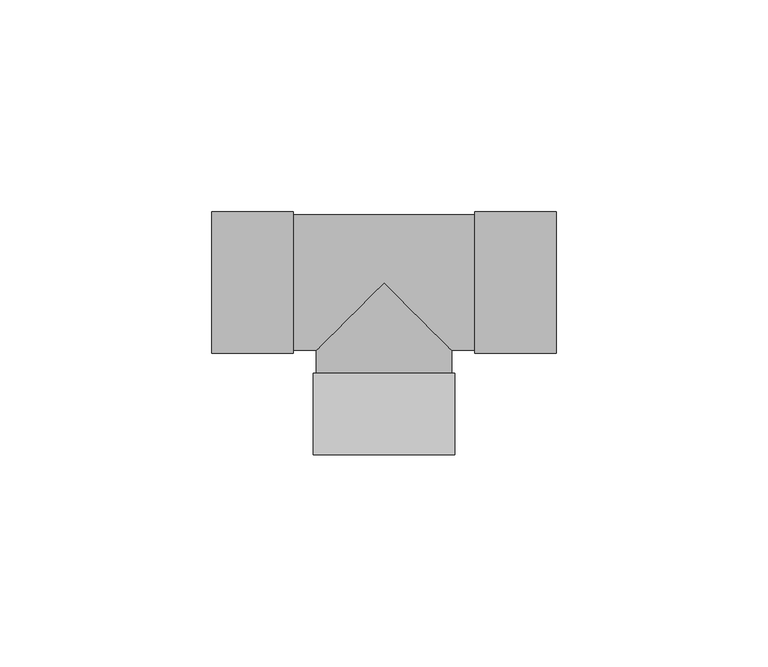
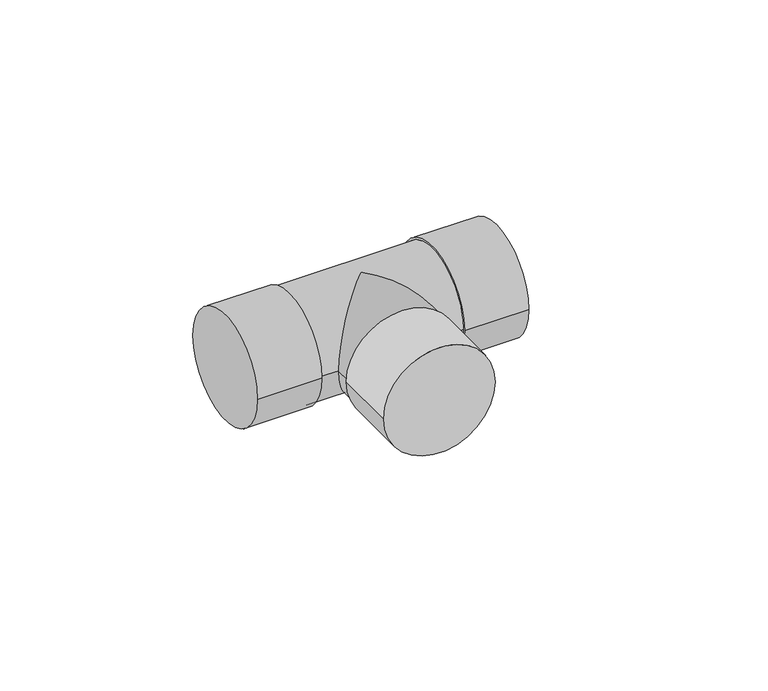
"""IFC4 building model written with IfcOpenShell, lengths in millimetres: pipe fitting geometry, Tê - Soldado - CU : Padrão."""

from ifc_helpers import new_model, si_unit, frame, origin, place, context, project, spatial, circle_curve, ellipse_curve, source, transform, mapped, element, save
from ifc_brep_helpers import plane_surface, cylinder_surface, advanced_brep


def pipe_fitting_a74a8f85(model_context):
    return source(origin(), model_context, "Body", "AdvancedBrep", [
        advanced_brep(
        [(16.69, -40.65, 0.0), (-16.69, -40.65, 0.0), (16.69, -21.4, 0.0), (-16.69, -21.4, 0.0), (16.0, -21.4, 0.0), (-16.0, -21.4, 0.0), (-40.62, -16.69, 0.0), (-40.62, 16.69, 0.0), (-21.37, -16.69, 0.0), (-21.37, 16.69, 0.0), (-21.37, -16.0, 0.0), (-21.37, 16.0, 0.0), (21.37, 16.0, 0.0), (-16.0, -16.0, 0.0), (0.0, 0.0, 16.0), (16.0, -16.0, 0.0), (21.37, -16.0, 0.0), (0.0, 0.0, -16.0), (21.37, -16.69, 0.0), (21.37, 16.69, 0.0), (40.62, -16.69, 0.0), (40.62, 16.69, 0.0)],
        [
            (0, 1, circle_curve(frame((0.0, -40.65, 0.0), z_axis=(0.0, -1.0, 0.0), x_axis=(-1.0, 0.0, 0.0)), 16.69)),
            (1, 0, circle_curve(frame((0.0, -40.65, 0.0), z_axis=(0.0, -1.0, 0.0), x_axis=(-1.0, 0.0, 0.0)), 16.69)),
            (2, 3, circle_curve(frame((0.0, -21.4, 0.0), z_axis=(0.0, 1.0, 0.0), x_axis=(-1.0, 0.0, 0.0)), 16.69)),
            (3, 2, circle_curve(frame((0.0, -21.4, 0.0), z_axis=(0.0, 1.0, 0.0), x_axis=(-1.0, 0.0, 0.0)), 16.69)),
            (4, 5, circle_curve(frame((0.0, -21.4, 0.0), z_axis=(0.0, -1.0, 0.0), x_axis=(1.0, 0.0, 0.0)), 16.0)),
            (5, 4, circle_curve(frame((0.0, -21.4, 0.0), z_axis=(0.0, -1.0, 0.0), x_axis=(1.0, 0.0, 0.0)), 16.0)),
            (0, 2),
            (3, 1),
            (6, 7, circle_curve(frame((-40.62, 0.0, 0.0), z_axis=(-1.0, 0.0, 0.0), x_axis=(0.0, 1.0, 0.0)), 16.69)),
            (7, 6, circle_curve(frame((-40.62, 0.0, 0.0), z_axis=(-1.0, 0.0, 0.0), x_axis=(0.0, 1.0, 0.0)), 16.69)),
            (8, 9, circle_curve(frame((-21.37, 0.0, 0.0), z_axis=(1.0, 0.0, 0.0), x_axis=(0.0, 1.0, 0.0)), 16.69)),
            (9, 8, circle_curve(frame((-21.37, 0.0, 0.0), z_axis=(1.0, 0.0, 0.0), x_axis=(0.0, 1.0, 0.0)), 16.69)),
            (10, 11, circle_curve(frame((-21.37, 0.0, 0.0), z_axis=(-1.0, 0.0, 0.0), x_axis=(0.0, 1.0, 0.0)), 16.0)),
            (11, 10, circle_curve(frame((-21.37, 0.0, 0.0), z_axis=(-1.0, 0.0, 0.0), x_axis=(0.0, 1.0, 0.0)), 16.0)),
            (6, 8),
            (9, 7),
            (12, 11),
            (10, 13),
            (13, 14, ellipse_curve(frame((0.0, 0.0, 0.0), z_axis=(-0.7071067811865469, 0.7071067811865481, 0.0), x_axis=(-0.707106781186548, -0.7071067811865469, 0.0)), 22.627417, 16.0)),
            (14, 15, ellipse_curve(frame((0.0, 0.0, 0.0), z_axis=(0.7071067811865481, 0.7071067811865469, 0.0), x_axis=(-0.707106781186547, 0.7071067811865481, 0.0)), 22.627417, 16.0)),
            (15, 16),
            (16, 12, circle_curve(frame((21.37, 0.0, 0.0), z_axis=(-1.0, 0.0, 0.0), x_axis=(0.0, 1.0, 0.0)), 16.0)),
            (12, 16, circle_curve(frame((21.37, 0.0, 0.0), z_axis=(-1.0, 0.0, 0.0), x_axis=(0.0, 1.0, 0.0)), 16.0)),
            (15, 17, ellipse_curve(frame((0.0, 0.0, 0.0), z_axis=(0.7071067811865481, 0.7071067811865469, 0.0), x_axis=(-0.707106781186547, 0.7071067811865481, 0.0)), 22.627417, 16.0)),
            (17, 13, ellipse_curve(frame((0.0, 0.0, 0.0), z_axis=(-0.7071067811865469, 0.7071067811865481, 0.0), x_axis=(-0.707106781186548, -0.7071067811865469, 0.0)), 22.627417, 16.0)),
            (18, 19, circle_curve(frame((21.37, 0.0, 0.0), z_axis=(-1.0, 0.0, 0.0), x_axis=(0.0, 1.0, 0.0)), 16.69)),
            (19, 18, circle_curve(frame((21.37, 0.0, 0.0), z_axis=(-1.0, 0.0, 0.0), x_axis=(0.0, 1.0, 0.0)), 16.69)),
            (20, 21, circle_curve(frame((40.62, 0.0, 0.0), z_axis=(1.0, 0.0, 0.0), x_axis=(0.0, 1.0, 0.0)), 16.69)),
            (21, 20, circle_curve(frame((40.62, 0.0, 0.0), z_axis=(1.0, 0.0, 0.0), x_axis=(0.0, 1.0, 0.0)), 16.69)),
            (18, 20),
            (21, 19),
            (4, 15),
            (13, 5),
        ],
        [
            plane_surface(frame((0.0, -40.65, 0.0), z_axis=(0.0, -1.0, 0.0), x_axis=(0.0, 0.0, 1.0))),
            plane_surface(frame((0.0, -21.4, 0.0), z_axis=(0.0, 1.0, 0.0), x_axis=(0.0, 0.0, 1.0))),
            cylinder_surface(frame((0.0, -40.65, 0.0), z_axis=(0.0, -1.0, 0.0), x_axis=(-1.0, 0.0, 0.0)), 16.69),
            plane_surface(frame((-40.62, 0.0, 0.0), z_axis=(-1.0, 0.0, 0.0), x_axis=(0.0, 0.0, 1.0))),
            plane_surface(frame((-21.37, 0.0, 0.0), z_axis=(1.0, 0.0, 0.0), x_axis=(0.0, 0.0, 1.0))),
            cylinder_surface(frame((-40.62, 0.0, 0.0), z_axis=(-1.0, 0.0, 0.0), x_axis=(0.0, 1.0, 0.0)), 16.69),
            cylinder_surface(frame((-21.37, 0.0, 0.0), z_axis=(-1.0, 0.0, 0.0), x_axis=(0.0, 1.0, 0.0)), 16.0),
            plane_surface(frame((21.37, 0.0, 0.0), z_axis=(-1.0, 0.0, 0.0), x_axis=(0.0, 0.0, 1.0))),
            plane_surface(frame((40.62, 0.0, 0.0), z_axis=(1.0, 0.0, 0.0), x_axis=(0.0, 0.0, 1.0))),
            cylinder_surface(frame((21.37, 0.0, 0.0), z_axis=(-1.0, 0.0, 0.0), x_axis=(0.0, 1.0, 0.0)), 16.69),
            cylinder_surface(frame((0.0, 0.0, 0.0), z_axis=(0.0, 1.0, 0.0), x_axis=(1.0, 0.0, 0.0)), 16.0),
        ],
        [
            (0, [[1, 2]]),
            (1, [[3, 4], [5, 6]]),
            (2, [[-1, 7, -4, 8]]),
            (2, [[-2, -8, -3, -7]]),
            (3, [[9, 10]]),
            (4, [[11, 12], [13, 14]]),
            (5, [[-9, 15, -12, 16]]),
            (5, [[-10, -16, -11, -15]]),
            (6, [[17, -13, 18, 19, 20, 21, 22]]),
            (6, [[-17, 23, -21, 24, 25, -18, -14]]),
            (7, [[26, 27], [-22, -23]]),
            (8, [[28, 29]]),
            (9, [[-26, 30, -29, 31]]),
            (9, [[-27, -31, -28, -30]]),
            (10, [[32, -20, -19, 33, -5]]),
            (10, [[-32, -6, -33, -25, -24]]),
        ],
    ),
    ])


if __name__ == "__main__":
    model = new_model("IFC4")
    model_context = context("Model", 3, world=origin())
    ifc_project = project(units=[si_unit("LENGTHUNIT", "METRE", prefix="MILLI")], contexts=[model_context])
    site = spatial("IfcSite", under=ifc_project)
    building = spatial("IfcBuilding", under=site)
    placement = place(None, origin())
    pipe_fitting_shape = pipe_fitting_a74a8f85(model_context)
    element("IfcPipeFitting", 1, ObjectType="Tê - Soldado - CU : Padrão", at=placement, inside=building, context=model_context, shape_type="MappedRepresentation", body=[
        mapped(pipe_fitting_shape, transform((0.0, 0.0, 0.0), x_axis=(1.0, 0.0, 0.0), y_axis=(0.0, 1.0, 0.0), z_axis=(0.0, 0.0, 1.0))),
    ])
    save(model, "model.ifc")
